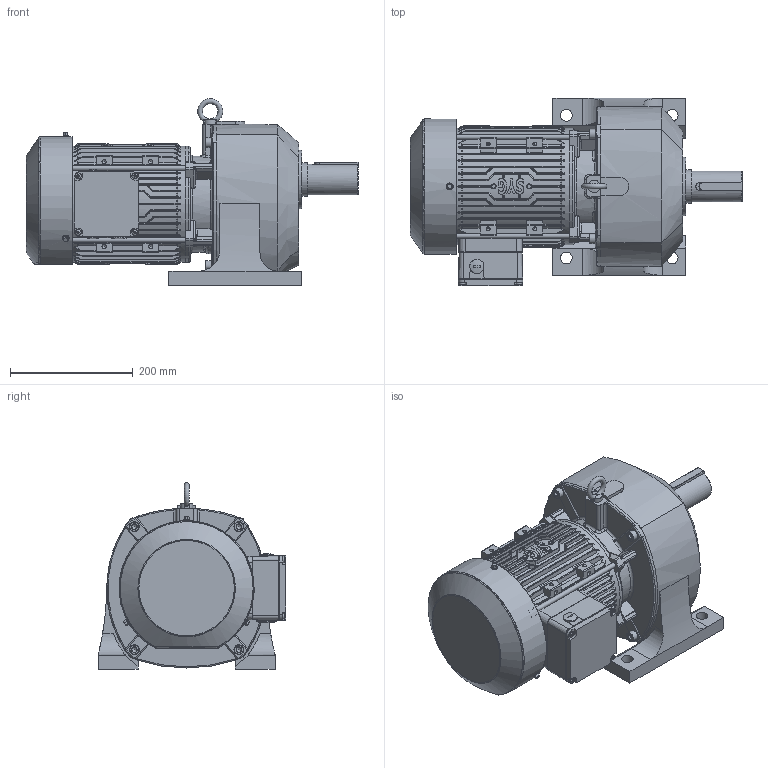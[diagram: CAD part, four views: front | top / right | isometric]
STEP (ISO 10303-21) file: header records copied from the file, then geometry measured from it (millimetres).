
FILE_DESCRIPTION(/* description */ (''),/* implementation_level */ '2;1');
FILE_NAME(/* name */ 'D:\▼ 3D：M2\00. 내부 직접 검토품\M2-172\외형도용 - ASS''Y\SK2\M21720A - OUTLINE (SK2，HT，2.2kW).stp',/* time_stamp */ '2026-05-22T14:32:40+09:00',/* author */ ('이정훈'),/* organization */ (''),/* preprocessor_version */ 'ST-DEVELOPER v18.1',/* originating_system */ 'Autodesk Inventor 2022',/* authorisation */ '');
FILE_SCHEMA (('AUTOMOTIVE_DESIGN { 1 0 10303 214 3 1 1 }'));
Products named in the file (1): M21720A - OUTLINE (SK2，HT，2.2kW
)
Bounding box: 540 x 305.5 x 303.5 mm (x, y, z)
Volume: 16250424 mm3; surface area: 784250.4 mm2
Topology: 1 solids, 1 shells, 3404 faces, 8871 edges, 5454 vertices
Faces by surface type: plane 1190, cylinder 1093, bspline 797, cone 210, torus 94, sphere 20
Full cylindrical faces by diameter (mm): 5.5 x3, 6.8 x4, 8 x4, 9 x4, 9.5 x4, 16 x4, 19 x4, 23 x2, 30.5 x1, 33 x1, 47 x1, 50 x1, 52 x1, 55 x1, 62 x1, 78 x1, 95 x1, 189 x2
Entity records: 143329 total; most frequent: CARTESIAN_POINT 64550, ORIENTED_EDGE 17644, DIRECTION 15497, EDGE_CURVE 8822, AXIS2_PLACEMENT_3D 5933, VERTEX_POINT 5454, LINE 3631, VECTOR 3631
